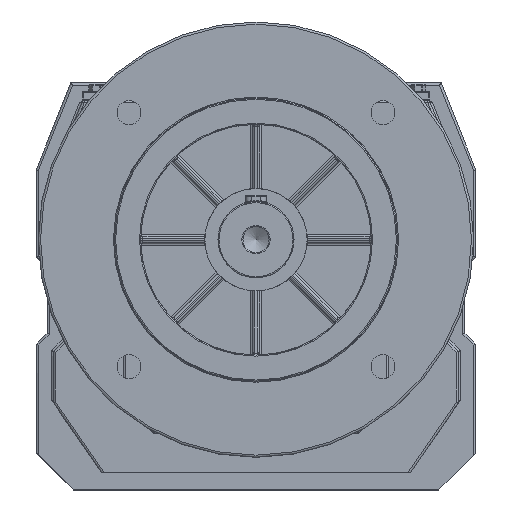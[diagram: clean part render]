
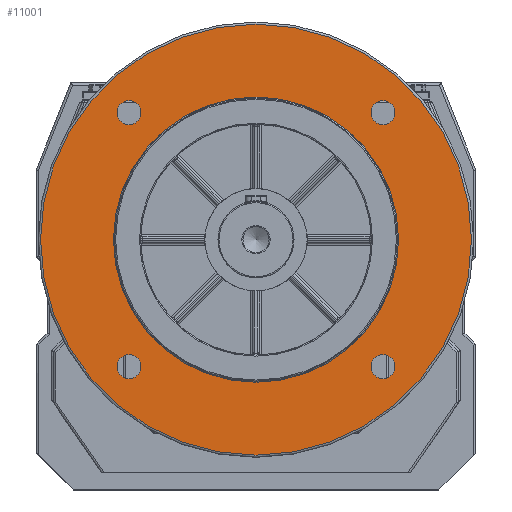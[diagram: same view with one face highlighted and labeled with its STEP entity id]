
A CAD part, front view. The second image highlights one B-rep face of the part: STEP entity #11001.
In plain terms, the highlighted planar face has unit normal (0, -1, 0).
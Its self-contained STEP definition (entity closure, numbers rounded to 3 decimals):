
#4824=CARTESIAN_POINT('',(-52.836,-112.5,173.336));
#4825=VERTEX_POINT('',#4824);
#4826=CARTESIAN_POINT('',(-58.336,-112.5,173.336));
#4827=DIRECTION('',(0.0,1.0,0.0));
#4828=DIRECTION('',(1.0,0.0,0.0));
#4829=AXIS2_PLACEMENT_3D('',#4826,#4827,#4828);
#4830=CIRCLE('',#4829,5.5);
#4831=EDGE_CURVE('',#4825,#4825,#4830,.T.);
#4873=CARTESIAN_POINT('',(-52.836,-112.5,56.664));
#4874=VERTEX_POINT('',#4873);
#4875=CARTESIAN_POINT('',(-58.336,-112.5,56.664));
#4876=DIRECTION('',(0.0,1.0,0.0));
#4877=DIRECTION('',(1.0,0.0,0.0));
#4878=AXIS2_PLACEMENT_3D('',#4875,#4876,#4877);
#4879=CIRCLE('',#4878,5.5);
#4880=EDGE_CURVE('',#4874,#4874,#4879,.T.);
#4922=CARTESIAN_POINT('',(63.836,-112.5,56.664));
#4923=VERTEX_POINT('',#4922);
#4924=CARTESIAN_POINT('',(58.336,-112.5,56.664));
#4925=DIRECTION('',(0.0,1.0,0.0));
#4926=DIRECTION('',(1.0,0.0,0.0));
#4927=AXIS2_PLACEMENT_3D('',#4924,#4925,#4926);
#4928=CIRCLE('',#4927,5.5);
#4929=EDGE_CURVE('',#4923,#4923,#4928,.T.);
#4971=CARTESIAN_POINT('',(63.836,-112.5,173.336));
#4972=VERTEX_POINT('',#4971);
#4973=CARTESIAN_POINT('',(58.336,-112.5,173.336));
#4974=DIRECTION('',(0.0,1.0,0.0));
#4975=DIRECTION('',(1.0,0.0,0.0));
#4976=AXIS2_PLACEMENT_3D('',#4973,#4974,#4975);
#4977=CIRCLE('',#4976,5.5);
#4978=EDGE_CURVE('',#4972,#4972,#4977,.T.);
#10955=CARTESIAN_POINT('',(0.0,-112.5,214.0));
#10956=VERTEX_POINT('',#10955);
#10957=CARTESIAN_POINT('',(0.0,-112.5,115.));
#10958=DIRECTION('',(0.0,1.0,0.0));
#10959=DIRECTION('',(0.0,0.0,-1.0));
#10960=AXIS2_PLACEMENT_3D('',#10957,#10958,#10959);
#10961=CIRCLE('',#10960,99.);
#10962=EDGE_CURVE('',#10956,#10956,#10961,.T.);
#10970=CARTESIAN_POINT('',(0.0,-112.5,197.5));
#10971=DIRECTION('',(0.0,-1.0,0.0));
#10972=DIRECTION('',(0.0,0.0,-1.0));
#10973=AXIS2_PLACEMENT_3D('',#10970,#10971,#10972);
#10974=PLANE('',#10973);
#10975=ORIENTED_EDGE('',*,*,#10962,.F.);
#10976=EDGE_LOOP('',(#10975));
#10977=FACE_OUTER_BOUND('',#10976,.T.);
#10978=ORIENTED_EDGE('',*,*,#4831,.T.);
#10979=EDGE_LOOP('',(#10978));
#10980=FACE_BOUND('',#10979,.T.);
#10981=ORIENTED_EDGE('',*,*,#4880,.T.);
#10982=EDGE_LOOP('',(#10981));
#10983=FACE_BOUND('',#10982,.T.);
#10984=ORIENTED_EDGE('',*,*,#4929,.T.);
#10985=EDGE_LOOP('',(#10984));
#10986=FACE_BOUND('',#10985,.T.);
#10987=ORIENTED_EDGE('',*,*,#4978,.T.);
#10988=EDGE_LOOP('',(#10987));
#10989=FACE_BOUND('',#10988,.T.);
#10990=CARTESIAN_POINT('',(0.,-112.5,180.5));
#10991=VERTEX_POINT('',#10990);
#10992=CARTESIAN_POINT('',(0.0,-112.5,115.));
#10993=DIRECTION('',(0.0,-1.0,0.0));
#10994=DIRECTION('',(0.0,0.0,-1.0));
#10995=AXIS2_PLACEMENT_3D('',#10992,#10993,#10994);
#10996=CIRCLE('',#10995,65.5);
#10997=EDGE_CURVE('',#10991,#10991,#10996,.T.);
#10998=ORIENTED_EDGE('',*,*,#10997,.F.);
#10999=EDGE_LOOP('',(#10998));
#11000=FACE_BOUND('',#10999,.T.);
#11001=ADVANCED_FACE('',(#10977,#10980,#10983,#10986,#10989,#11000),#10974,.T.);
